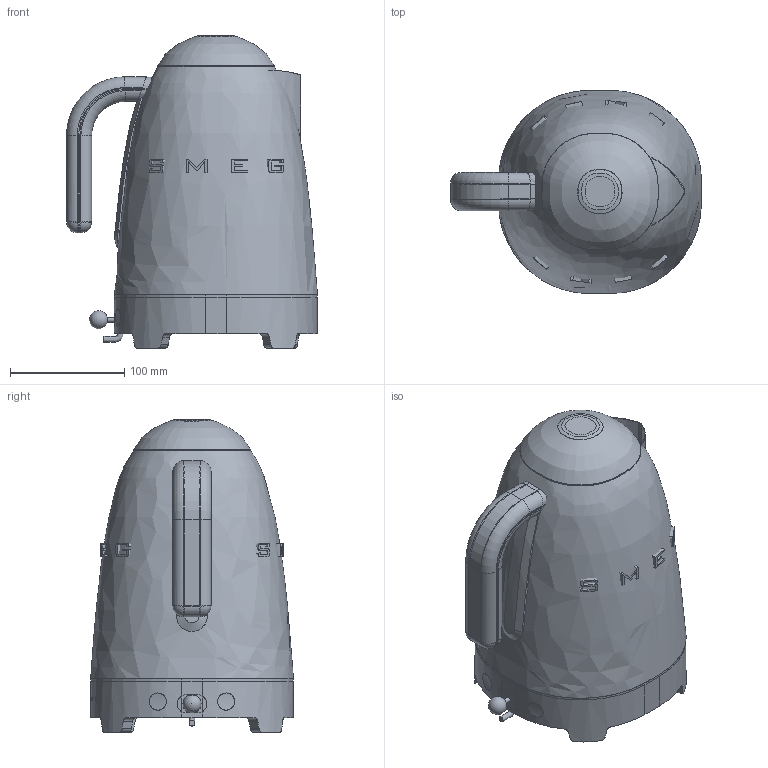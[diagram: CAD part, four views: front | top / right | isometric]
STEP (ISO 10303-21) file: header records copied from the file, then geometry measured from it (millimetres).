
FILE_DESCRIPTION(/* description */ (''),/* implementation_level */ '2;1');
FILE_NAME(/* name */ 'bollitore elett klf04.stp',/* time_stamp */ '2018-09-20T12:17:22+02:00',/* author */ (''),/* organization */ (''),/* preprocessor_version */ 'ST-DEVELOPER v16',/* originating_system */ 'SIEMENS PLM Software NX 11.0',/* authorisation */ '');
FILE_SCHEMA (('AUTOMOTIVE_DESIGN { 1 0 10303 214 3 1 1 1 }'));
Length unit declared in the file: millimetre
Products named in the file (1): gobb80D85F20cgme
Bounding box: 220.01 x 178 x 274.19 mm (x, y, z)
Volume: 5314210 mm3; surface area: 441624.4 mm2
Topology: 22 solids, 22 shells, 328 faces, 806 edges, 527 vertices
Faces by surface type: plane 186, cylinder 88, extrusion 26, bspline 18, sphere 5, torus 4, cone 1
Full cylindrical faces by diameter (mm): 3 x7, 4 x1, 15 x4
Entity records: 13780 total; most frequent: CARTESIAN_POINT 6661, ORIENTED_EDGE 1540, DIRECTION 1176, EDGE_CURVE 770, VERTEX_POINT 513, AXIS2_PLACEMENT_3D 425, EDGE_LOOP 357, B_SPLINE_CURVE_WITH_KNOTS 342
